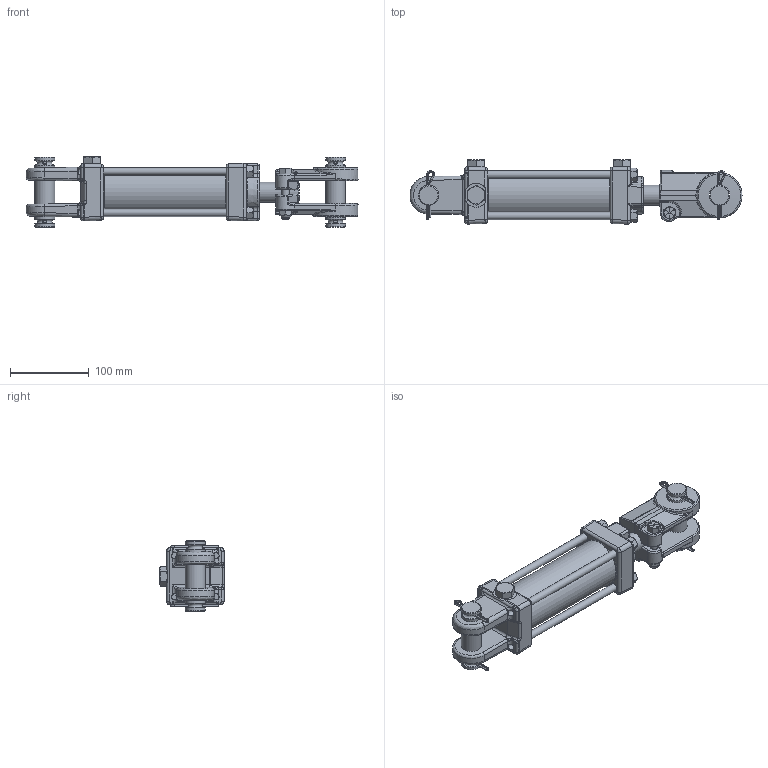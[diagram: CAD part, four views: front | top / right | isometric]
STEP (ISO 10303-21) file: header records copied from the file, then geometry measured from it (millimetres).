
FILE_DESCRIPTION((''),'2;1');
FILE_NAME('C:\Vault\Workspace\Vest\SAE-8404.stp','2010-01-18T12:54:10',('NewtonB'),(''),'Autodesk Inventor 2010','Autodesk Inventor 2010','');
FILE_SCHEMA(('AUTOMOTIVE_DESIGN { 1 0 10303 214 1 1 1 1 }'));
Length unit declared in the file: inch
Products named in the file (24): SAE-8404; 051106063AV; 1411005SFV; 0811ABASFV; 010400006V; 100000425V; 100000424V; 170002104V; 220000203V; 071100004V; 220000208V; 200300040V; 190400001V; 220001504V; 170103081V; 800003701V-8.125; 220000103V; 240000224V; 240061224V; 240063326V; 240000326V; 240000018V; 240037002V; 250001214V
Assembly tree (35 placements, depth 3):
  SAE-8404
    051106063AV
    1411005SFV
    0811ABASFV
    010400006V
    100000425V
      100000424V
      170002104V
      220000203V
    071100004V
    220000208V
    200300040V  x3
    190400001V  x2
    220001504V  x4
    170103081V  x4
      800003701V-8.125
      220000103V
    240000224V  x2
    240061224V  x2
    240063326V  x2
    240000326V
    240000018V
    240037002V
    250001214V
Bounding box: 422.08 x 81.58 x 89.4 mm (x, y, z)
Volume: 995011.9 mm3; surface area: 272608.4 mm2
Topology: 36 solids, 36 shells, 1000 faces, 2311 edges, 1380 vertices
Faces by surface type: plane 312, bspline 268, cylinder 223, cone 150, torus 26, sphere 21
Full cylindrical faces by diameter (mm): 1.143 x2, 5.159 x4, 9.493 x1, 9.525 x4, 10.319 x2, 16.764 x3, 18.999 x1, 19.05 x3, 19.126 x1, 21.59 x1, 25.4 x7, 25.425 x1, 25.476 x2, 25.781 x4, 28.397 x1, 28.423 x1, 30.175 x1, 31.115 x1, 31.725 x1, 31.75 x2, 34.925 x1, 41.402 x1, 44.45 x2, 44.958 x2, 45.161 x2, 50.292 x2, 50.444 x2, 50.571 x6, 50.8 x1, 60.325 x1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
Entity records: 28491 total; most frequent: CARTESIAN_POINT 11236, ORIENTED_EDGE 3390, DIRECTION 3202, EDGE_CURVE 1695, AXIS2_PLACEMENT_3D 1313, VERTEX_POINT 1074, EDGE_LOOP 989, FACE_OUTER_BOUND 793
